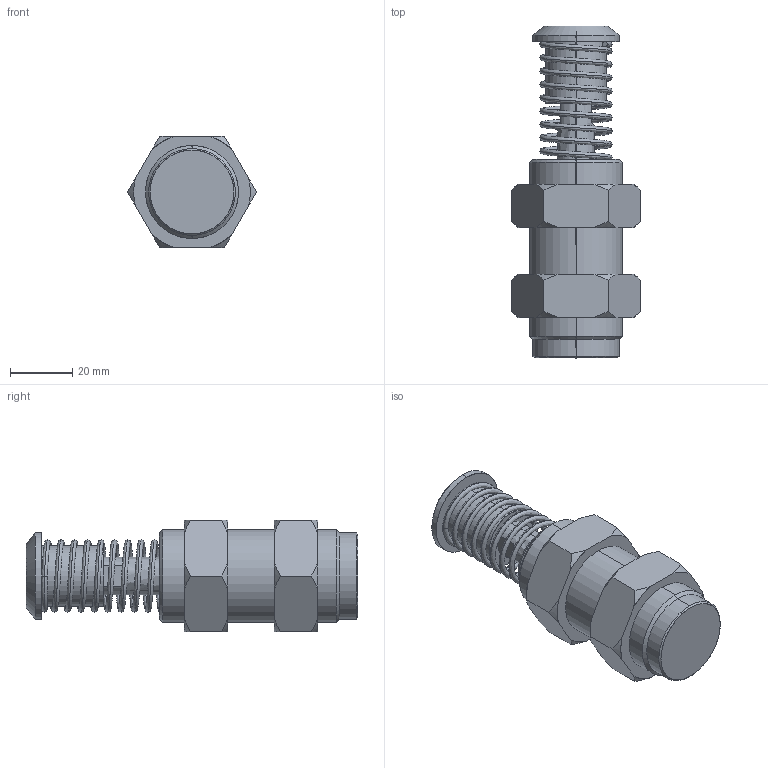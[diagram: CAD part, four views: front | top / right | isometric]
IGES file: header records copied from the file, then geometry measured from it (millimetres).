
Start section: SolidWorks IGES file using analytic representation for surfaces
Global section: file name: Z:\7-3D図面\02.3Dデータ(提出用)\電子カタログ\Ｓ／Ａ\FED\FED-3020M-C.IGS; native system: SolidWorks 2015; preprocessor: SolidWorks 2015; author: flgijutsu02; date: 150615.120017; units: millimetre
Bounding box: 41.57 x 107 x 36 mm (x, y, z)
Surface area: 23684 mm2 (no closed solid volume)
Topology: 0 solids, 0 shells, 95 faces, 1345 edges, 1345 vertices
Faces by surface type: revolution 52, bspline 43
